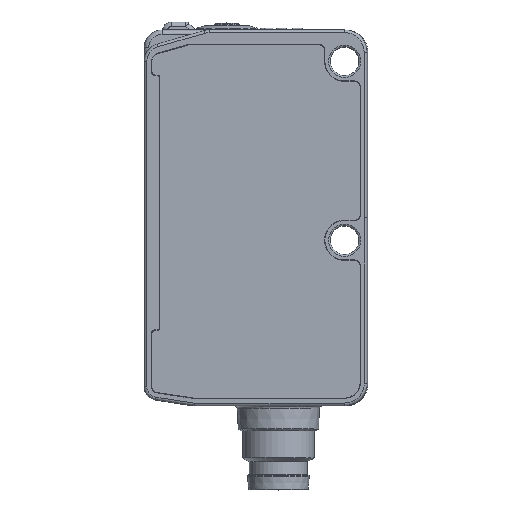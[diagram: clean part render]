
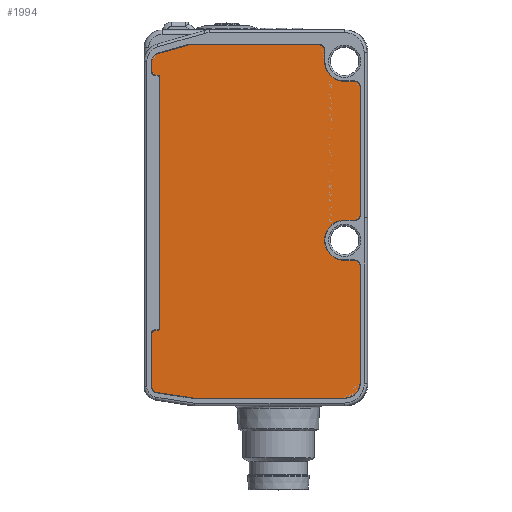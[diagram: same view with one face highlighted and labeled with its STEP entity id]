
A CAD part, top view. The second image highlights one B-rep face of the part: STEP entity #1994.
In plain terms, the highlighted planar face has unit normal (0, 0, 1).
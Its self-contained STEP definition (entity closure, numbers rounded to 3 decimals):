
#1376=FACE_OUTER_BOUND('',#2770,.T.);
#1994=ADVANCED_FACE('',(#1376),#2173,.T.);
#2173=PLANE('',#8538);
#2770=EDGE_LOOP('',(#4968,#4969,#4970,#4971,#4972,#4973,#4974,#4975,#4976,
#4977,#4978,#4979,#4980,#4981,#4982,#4983,#4984,#4985,#4986,#4987,#4988,
#4989,#4990,#4991,#4992,#4993,#4994,#4995,#4996,#4997));
#3169=CIRCLE('',#8435,0.45);
#3171=CIRCLE('',#8439,0.25);
#3173=CIRCLE('',#8443,0.25);
#3175=CIRCLE('',#8447,0.45);
#3177=CIRCLE('',#8451,0.95);
#3179=CIRCLE('',#8455,0.65);
#3181=CIRCLE('',#8459,0.65);
#3183=CIRCLE('',#8463,2.25);
#3185=CIRCLE('',#8467,0.65);
#3187=CIRCLE('',#8471,0.65);
#3189=CIRCLE('',#8475,2.25);
#3191=CIRCLE('',#8479,0.65);
#3193=CIRCLE('',#8483,1.85);
#3195=CIRCLE('',#8487,0.65);
#3210=CIRCLE('',#8534,0.65);
#4968=ORIENTED_EDGE('',*,*,#6600,.F.);
#4969=ORIENTED_EDGE('',*,*,#6748,.F.);
#4970=ORIENTED_EDGE('',*,*,#6685,.F.);
#4971=ORIENTED_EDGE('',*,*,#6682,.F.);
#4972=ORIENTED_EDGE('',*,*,#6679,.F.);
#4973=ORIENTED_EDGE('',*,*,#6676,.F.);
#4974=ORIENTED_EDGE('',*,*,#6673,.F.);
#4975=ORIENTED_EDGE('',*,*,#6670,.F.);
#4976=ORIENTED_EDGE('',*,*,#6667,.F.);
#4977=ORIENTED_EDGE('',*,*,#6664,.F.);
#4978=ORIENTED_EDGE('',*,*,#6661,.F.);
#4979=ORIENTED_EDGE('',*,*,#6658,.F.);
#4980=ORIENTED_EDGE('',*,*,#6655,.F.);
#4981=ORIENTED_EDGE('',*,*,#6652,.F.);
#4982=ORIENTED_EDGE('',*,*,#6649,.F.);
#4983=ORIENTED_EDGE('',*,*,#6646,.F.);
#4984=ORIENTED_EDGE('',*,*,#6643,.F.);
#4985=ORIENTED_EDGE('',*,*,#6640,.F.);
#4986=ORIENTED_EDGE('',*,*,#6637,.F.);
#4987=ORIENTED_EDGE('',*,*,#6634,.F.);
#4988=ORIENTED_EDGE('',*,*,#6631,.F.);
#4989=ORIENTED_EDGE('',*,*,#6628,.F.);
#4990=ORIENTED_EDGE('',*,*,#6625,.F.);
#4991=ORIENTED_EDGE('',*,*,#6622,.F.);
#4992=ORIENTED_EDGE('',*,*,#6619,.F.);
#4993=ORIENTED_EDGE('',*,*,#6616,.F.);
#4994=ORIENTED_EDGE('',*,*,#6613,.F.);
#4995=ORIENTED_EDGE('',*,*,#6610,.F.);
#4996=ORIENTED_EDGE('',*,*,#6607,.F.);
#4997=ORIENTED_EDGE('',*,*,#6604,.F.);
#5724=VERTEX_POINT('',#13704);
#5725=VERTEX_POINT('',#13705);
#5728=VERTEX_POINT('',#13713);
#5730=VERTEX_POINT('',#13719);
#5732=VERTEX_POINT('',#13725);
#5734=VERTEX_POINT('',#13731);
#5736=VERTEX_POINT('',#13737);
#5738=VERTEX_POINT('',#13743);
#5740=VERTEX_POINT('',#13749);
#5742=VERTEX_POINT('',#13755);
#5744=VERTEX_POINT('',#13761);
#5746=VERTEX_POINT('',#13767);
#5748=VERTEX_POINT('',#13773);
#5750=VERTEX_POINT('',#13779);
#5752=VERTEX_POINT('',#13785);
#5754=VERTEX_POINT('',#13791);
#5756=VERTEX_POINT('',#13797);
#5758=VERTEX_POINT('',#13803);
#5760=VERTEX_POINT('',#13809);
#5762=VERTEX_POINT('',#13815);
#5764=VERTEX_POINT('',#13821);
#5766=VERTEX_POINT('',#13827);
#5768=VERTEX_POINT('',#13833);
#5770=VERTEX_POINT('',#13839);
#5772=VERTEX_POINT('',#13845);
#5774=VERTEX_POINT('',#13851);
#5776=VERTEX_POINT('',#13857);
#5778=VERTEX_POINT('',#13863);
#5780=VERTEX_POINT('',#13869);
#5782=VERTEX_POINT('',#13875);
#6600=EDGE_CURVE('',#5724,#5725,#7205,.T.);
#6604=EDGE_CURVE('',#5725,#5728,#3169,.T.);
#6607=EDGE_CURVE('',#5728,#5730,#7210,.T.);
#6610=EDGE_CURVE('',#5730,#5732,#3171,.T.);
#6613=EDGE_CURVE('',#5732,#5734,#7214,.T.);
#6616=EDGE_CURVE('',#5734,#5736,#3173,.T.);
#6619=EDGE_CURVE('',#5736,#5738,#7218,.T.);
#6622=EDGE_CURVE('',#5738,#5740,#3175,.T.);
#6625=EDGE_CURVE('',#5740,#5742,#7222,.T.);
#6628=EDGE_CURVE('',#5742,#5744,#3177,.T.);
#6631=EDGE_CURVE('',#5744,#5746,#7226,.T.);
#6634=EDGE_CURVE('',#5746,#5748,#3179,.T.);
#6637=EDGE_CURVE('',#5748,#5750,#7230,.T.);
#6640=EDGE_CURVE('',#5750,#5752,#3181,.T.);
#6643=EDGE_CURVE('',#5752,#5754,#7234,.T.);
#6646=EDGE_CURVE('',#5754,#5756,#3183,.T.);
#6649=EDGE_CURVE('',#5756,#5758,#7238,.T.);
#6652=EDGE_CURVE('',#5758,#5760,#3185,.T.);
#6655=EDGE_CURVE('',#5760,#5762,#7242,.T.);
#6658=EDGE_CURVE('',#5762,#5764,#3187,.T.);
#6661=EDGE_CURVE('',#5764,#5766,#7246,.T.);
#6664=EDGE_CURVE('',#5766,#5768,#3189,.T.);
#6667=EDGE_CURVE('',#5768,#5770,#7250,.T.);
#6670=EDGE_CURVE('',#5770,#5772,#3191,.T.);
#6673=EDGE_CURVE('',#5772,#5774,#7254,.T.);
#6676=EDGE_CURVE('',#5774,#5776,#3193,.T.);
#6679=EDGE_CURVE('',#5776,#5778,#7258,.T.);
#6682=EDGE_CURVE('',#5778,#5780,#3195,.T.);
#6685=EDGE_CURVE('',#5780,#5782,#7262,.T.);
#6748=EDGE_CURVE('',#5782,#5724,#3210,.T.);
#7205=LINE('',#13703,#7702);
#7210=LINE('',#13718,#7707);
#7214=LINE('',#13730,#7711);
#7218=LINE('',#13742,#7715);
#7222=LINE('',#13754,#7719);
#7226=LINE('',#13766,#7723);
#7230=LINE('',#13778,#7727);
#7234=LINE('',#13790,#7731);
#7238=LINE('',#13802,#7735);
#7242=LINE('',#13814,#7739);
#7246=LINE('',#13826,#7743);
#7250=LINE('',#13838,#7747);
#7254=LINE('',#13850,#7751);
#7258=LINE('',#13862,#7755);
#7262=LINE('',#13874,#7759);
#7702=VECTOR('',#10073,1.);
#7707=VECTOR('',#10086,1.);
#7711=VECTOR('',#10098,1.);
#7715=VECTOR('',#10110,1.);
#7719=VECTOR('',#10122,1.);
#7723=VECTOR('',#10134,1.);
#7727=VECTOR('',#10146,1.);
#7731=VECTOR('',#10158,1.);
#7735=VECTOR('',#10170,1.);
#7739=VECTOR('',#10182,1.);
#7743=VECTOR('',#10194,1.);
#7747=VECTOR('',#10206,1.);
#7751=VECTOR('',#10218,1.);
#7755=VECTOR('',#10230,1.);
#7759=VECTOR('',#10242,1.);
#8435=AXIS2_PLACEMENT_3D('',#13712,#10079,#10080);
#8439=AXIS2_PLACEMENT_3D('',#13724,#10091,#10092);
#8443=AXIS2_PLACEMENT_3D('',#13736,#10103,#10104);
#8447=AXIS2_PLACEMENT_3D('',#13748,#10115,#10116);
#8451=AXIS2_PLACEMENT_3D('',#13760,#10127,#10128);
#8455=AXIS2_PLACEMENT_3D('',#13772,#10139,#10140);
#8459=AXIS2_PLACEMENT_3D('',#13784,#10151,#10152);
#8463=AXIS2_PLACEMENT_3D('',#13796,#10163,#10164);
#8467=AXIS2_PLACEMENT_3D('',#13808,#10175,#10176);
#8471=AXIS2_PLACEMENT_3D('',#13820,#10187,#10188);
#8475=AXIS2_PLACEMENT_3D('',#13832,#10199,#10200);
#8479=AXIS2_PLACEMENT_3D('',#13844,#10211,#10212);
#8483=AXIS2_PLACEMENT_3D('',#13856,#10223,#10224);
#8487=AXIS2_PLACEMENT_3D('',#13868,#10235,#10236);
#8534=AXIS2_PLACEMENT_3D('',#14015,#10379,#10380);
#8538=AXIS2_PLACEMENT_3D('',#14019,#10387,#10388);
#10073=DIRECTION('',(0.,1.,0.));
#10079=DIRECTION('',(0.,0.,-1.));
#10080=DIRECTION('',(0.,1.,0.));
#10086=DIRECTION('',(1.,0.,0.));
#10091=DIRECTION('',(0.,0.,1.));
#10092=DIRECTION('',(0.,-1.,0.));
#10098=DIRECTION('',(0.,1.,0.));
#10103=DIRECTION('',(0.,0.,1.));
#10104=DIRECTION('',(1.,0.,0.));
#10110=DIRECTION('',(-1.,0.,0.));
#10115=DIRECTION('',(0.,0.,-1.));
#10116=DIRECTION('',(0.,-1.,0.));
#10122=DIRECTION('',(0.,1.,0.));
#10127=DIRECTION('',(0.,0.,-1.));
#10128=DIRECTION('',(1.,0.,0.));
#10134=DIRECTION('',(0.962,0.275,0.));
#10139=DIRECTION('',(0.,0.,-1.));
#10140=DIRECTION('',(1.,0.,0.));
#10146=DIRECTION('',(1.,0.,0.));
#10151=DIRECTION('',(0.,0.,-1.));
#10152=DIRECTION('',(1.,0.,0.));
#10158=DIRECTION('',(0.,-1.,0.));
#10163=DIRECTION('',(0.,0.,1.));
#10164=DIRECTION('',(1.,0.,0.));
#10170=DIRECTION('',(1.,0.,0.));
#10175=DIRECTION('',(0.,0.,-1.));
#10176=DIRECTION('',(1.,0.,0.));
#10182=DIRECTION('',(0.,-1.,0.));
#10187=DIRECTION('',(0.,0.,-1.));
#10188=DIRECTION('',(1.,0.,0.));
#10194=DIRECTION('',(-1.,0.,0.));
#10199=DIRECTION('',(0.,0.,1.));
#10200=DIRECTION('',(1.,0.,0.));
#10206=DIRECTION('',(1.,0.,0.));
#10211=DIRECTION('',(0.,0.,-1.));
#10212=DIRECTION('',(1.,0.,0.));
#10218=DIRECTION('',(0.,-1.,0.));
#10223=DIRECTION('',(0.,0.,-1.));
#10224=DIRECTION('',(1.,0.,0.));
#10230=DIRECTION('',(-1.,0.,0.));
#10235=DIRECTION('',(0.,0.,-1.));
#10236=DIRECTION('',(1.,0.,0.));
#10242=DIRECTION('',(-0.988,0.153,0.));
#10379=DIRECTION('',(0.,0.,-1.));
#10380=DIRECTION('',(1.,0.,0.));
#10387=DIRECTION('',(0.,0.,1.));
#10388=DIRECTION('',(1.,0.,0.));
#13703=CARTESIAN_POINT('',(-28.695,-49.433,14.));
#13704=CARTESIAN_POINT('',(-28.695,-49.433,14.));
#13705=CARTESIAN_POINT('',(-28.695,-43.566,14.));
#13712=CARTESIAN_POINT('',(-28.245,-43.566,14.));
#13713=CARTESIAN_POINT('',(-28.245,-43.116,14.));
#13718=CARTESIAN_POINT('',(-28.245,-43.116,14.));
#13719=CARTESIAN_POINT('',(-28.045,-43.116,14.));
#13724=CARTESIAN_POINT('',(-28.045,-42.866,14.));
#13725=CARTESIAN_POINT('',(-27.795,-42.866,14.));
#13730=CARTESIAN_POINT('',(-27.795,-42.866,14.));
#13731=CARTESIAN_POINT('',(-27.795,-14.866,14.));
#13736=CARTESIAN_POINT('',(-28.045,-14.866,14.));
#13737=CARTESIAN_POINT('',(-28.045,-14.616,14.));
#13742=CARTESIAN_POINT('',(-28.045,-14.616,14.));
#13743=CARTESIAN_POINT('',(-28.245,-14.616,14.));
#13748=CARTESIAN_POINT('',(-28.245,-14.166,14.));
#13749=CARTESIAN_POINT('',(-28.695,-14.166,14.));
#13754=CARTESIAN_POINT('',(-28.695,-14.166,14.));
#13755=CARTESIAN_POINT('',(-28.695,-13.133,14.));
#13760=CARTESIAN_POINT('',(-27.745,-13.133,14.));
#13761=CARTESIAN_POINT('',(-28.006,-12.219,14.));
#13766=CARTESIAN_POINT('',(-28.006,-12.219,14.));
#13767=CARTESIAN_POINT('',(-24.582,-11.241,14.));
#13772=CARTESIAN_POINT('',(-24.404,-11.866,14.));
#13773=CARTESIAN_POINT('',(-24.404,-11.216,14.));
#13778=CARTESIAN_POINT('',(-24.404,-11.216,14.));
#13779=CARTESIAN_POINT('',(-10.045,-11.216,14.));
#13784=CARTESIAN_POINT('',(-10.045,-11.866,14.));
#13785=CARTESIAN_POINT('',(-9.395,-11.866,14.));
#13790=CARTESIAN_POINT('',(-9.395,-11.866,14.));
#13791=CARTESIAN_POINT('',(-9.395,-13.066,14.));
#13796=CARTESIAN_POINT('',(-7.145,-13.066,14.));
#13797=CARTESIAN_POINT('',(-7.145,-15.316,14.));
#13802=CARTESIAN_POINT('',(-7.145,-15.316,14.));
#13803=CARTESIAN_POINT('',(-6.045,-15.316,14.));
#13808=CARTESIAN_POINT('',(-6.045,-15.966,14.));
#13809=CARTESIAN_POINT('',(-5.395,-15.966,14.));
#13814=CARTESIAN_POINT('',(-5.395,-15.966,14.));
#13815=CARTESIAN_POINT('',(-5.395,-30.166,14.));
#13820=CARTESIAN_POINT('',(-6.045,-30.166,14.));
#13821=CARTESIAN_POINT('',(-6.045,-30.816,14.));
#13826=CARTESIAN_POINT('',(-6.045,-30.816,14.));
#13827=CARTESIAN_POINT('',(-7.145,-30.816,14.));
#13832=CARTESIAN_POINT('',(-7.145,-33.066,14.));
#13833=CARTESIAN_POINT('',(-7.145,-35.316,14.));
#13838=CARTESIAN_POINT('',(-7.145,-35.316,14.));
#13839=CARTESIAN_POINT('',(-6.045,-35.316,14.));
#13844=CARTESIAN_POINT('',(-6.045,-35.966,14.));
#13845=CARTESIAN_POINT('',(-5.395,-35.966,14.));
#13850=CARTESIAN_POINT('',(-5.395,-35.966,14.));
#13851=CARTESIAN_POINT('',(-5.395,-48.866,14.));
#13856=CARTESIAN_POINT('',(-7.245,-48.866,14.));
#13857=CARTESIAN_POINT('',(-7.245,-50.716,14.));
#13862=CARTESIAN_POINT('',(-7.245,-50.716,14.));
#13863=CARTESIAN_POINT('',(-23.945,-50.716,14.));
#13868=CARTESIAN_POINT('',(-23.945,-50.066,14.));
#13869=CARTESIAN_POINT('',(-24.044,-50.709,14.));
#13874=CARTESIAN_POINT('',(-24.044,-50.709,14.));
#13875=CARTESIAN_POINT('',(-28.144,-50.075,14.));
#14015=CARTESIAN_POINT('',(-28.045,-49.433,14.));
#14019=CARTESIAN_POINT('',(-30.895,-53.766,14.));
